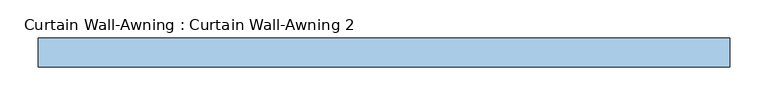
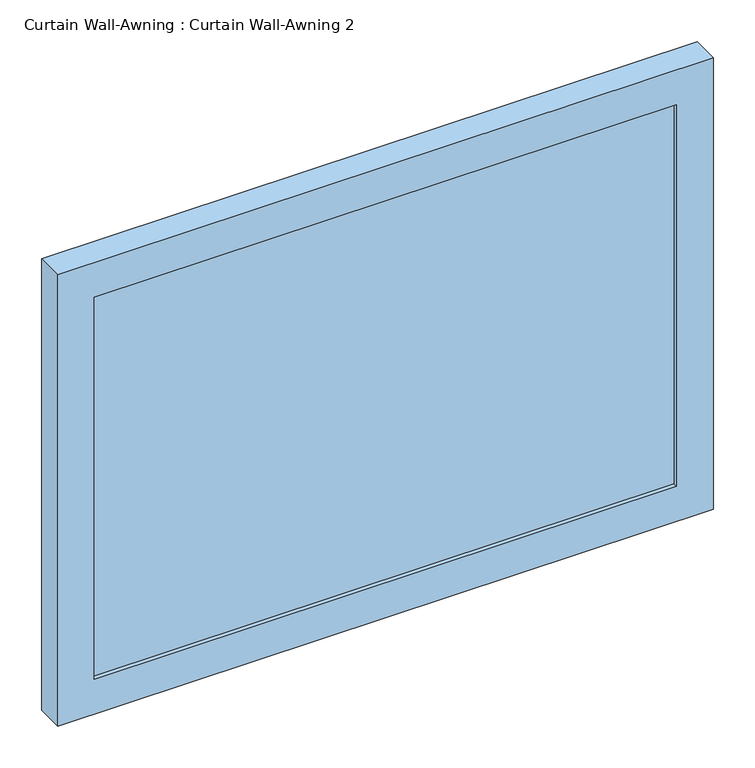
"""IFC4 building model written with IfcOpenShell, lengths in millimetres: window geometry, Curtain Wall-Awning : Curtain Wall-Awning 2."""

from ifc_helpers import new_model, si_unit, frame, origin, place, context, project, spatial, polyline, outline, extrude, source, transform, mapped, element, save


def curtain_wall_awning_curtain_wall_awning_2_53cfe8c5(model_context):
    return source(origin(), model_context, "Body", "SweptSolid", [
        extrude(outline(polyline([(402.3779682, 19.05), (402.3779682, 6.35), (-402.3779682, 6.35), (-402.3779682, 19.05), (402.3779682, 19.05)])), frame((0.0, 0.0, 50.8), z_axis=(0.0, 0.0, 1.0), x_axis=(1.0, 0.0, 0.0)), (0.0, 0.0, 1.0), 557.907202),
        extrude(outline(polyline([(659.507202, -453.1779682), (0.0, -453.1779682), (0.0, 453.1779682), (659.507202, 453.1779682), (659.507202, -453.1779682)]), holes=[polyline([(608.707202, -402.3779682), (608.707202, 402.3779682), (50.8, 402.3779682), (50.8, -402.3779682), (608.707202, -402.3779682)])]), frame((0.0, 0.0, 0.0), z_axis=(0.0, 1.0, 0.0), x_axis=(0.0, 0.0, 1.0)), (0.0, 0.0, 1.0), 38.1),
    ])


if __name__ == "__main__":
    model = new_model("IFC4")
    model_context = context("Model", 3, world=origin())
    ifc_project = project(units=[si_unit("LENGTHUNIT", "METRE", prefix="MILLI")], contexts=[model_context])
    site = spatial("IfcSite", under=ifc_project)
    building = spatial("IfcBuilding", under=site)
    placement = place(None, origin())
    curtain_wall_awning_curtain_wall_awning_2_shape = curtain_wall_awning_curtain_wall_awning_2_53cfe8c5(model_context)
    element("IfcWindow", 1, ObjectType="Curtain Wall-Awning : Curtain Wall-Awning 2", at=placement, inside=building, context=model_context, shape_type="MappedRepresentation", body=[
        mapped(curtain_wall_awning_curtain_wall_awning_2_shape, transform((0.0, 0.0, 0.0), x_axis=(1.0, 0.0, 0.0), y_axis=(0.0, 1.0, 0.0), z_axis=(0.0, 0.0, 1.0))),
    ])
    save(model, "model.ifc")
